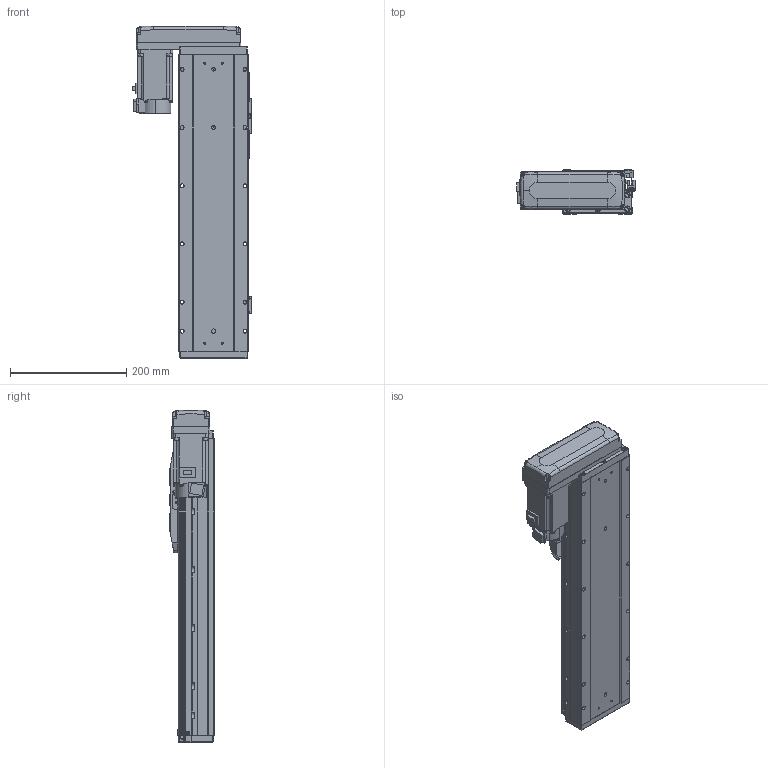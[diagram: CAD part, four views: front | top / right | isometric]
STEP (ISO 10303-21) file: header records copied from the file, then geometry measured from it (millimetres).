
FILE_DESCRIPTION (( 'STEP AP203' ), '1' );
FILE_NAME ('GTH12-300-BR-M40-C4.step', '2025-07-16T03:44:09', ( '' ), ( '' ), 'SwSTEP 2.0', 'SolidWorks 2023', '' );
FILE_SCHEMA (( 'CONFIG_CONTROL_DESIGN' ));
Length unit declared in the file: millimetre
Products named in the file (18): GTH12-300-BR-M40-C4; GTH120-004; GBT96.1-2002 3×0.8; GTH120-013; GBT 70.1-M5×16; GTH120-027-1_GTH120-027-2; GTH80-028; GBT 70.1-M3×6; GTH80-022; GTH120-003; CTHA86-033_M40B; GTH50-024; hg-kn43j_-s100_; GTH120-001_300; GTH120-006; BTH-M3X5X6; GBT 70.3-M3×8; GTH50-023
Assembly tree (59 placements, depth 2):
  GTH12-300-BR-M40-C4
    GTH120-001_300
    GTH120-003
    GTH120-006
    GTH120-004
    GTH120-013
    GBT 70.1-M3×6  x14
    GBT 70.1-M5×16  x10
    GBT 70.3-M3×8  x4
    GTH80-022
    GTH80-028  x2
    GTH50-023  x3
    GTH50-024  x3
    GBT96.1-2002 3×0.8  x6
    BTH-M3X5X6  x8
    hg-kn43j_-s100_
    CTHA86-033_M40B
    GTH120-027-1_GTH120-027-2
Bounding box: 203.5 x 76 x 570.5 mm (x, y, z)
Volume: 4571694.7 mm3; surface area: 488308.1 mm2
Topology: 61 solids, 61 shells, 2384 faces, 5539 edges, 3397 vertices
Faces by surface type: plane 1240, cylinder 676, cone 280, torus 174, sphere 8, bspline 6
Entity records: 43729 total; most frequent: CARTESIAN_POINT 7406, DIRECTION 7207, ORIENTED_EDGE 6688, EDGE_CURVE 3344, AXIS2_PLACEMENT_3D 2519, LINE 2169, VECTOR 2169, VERTEX_POINT 2118
